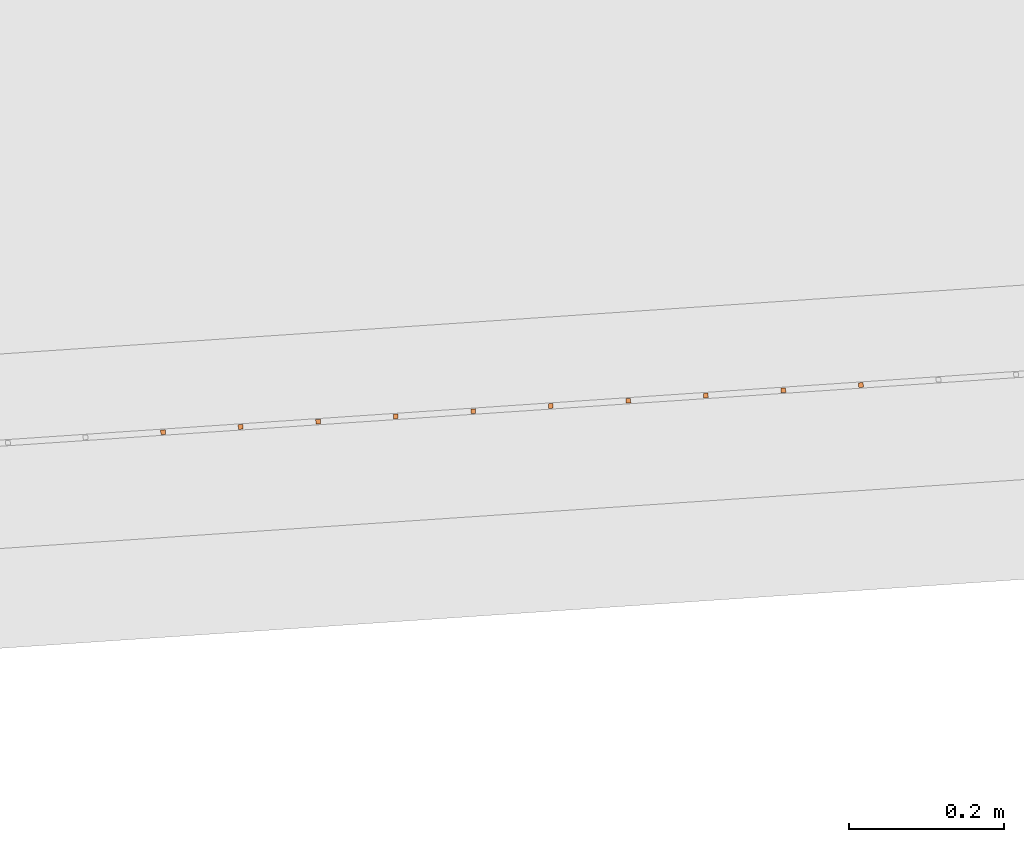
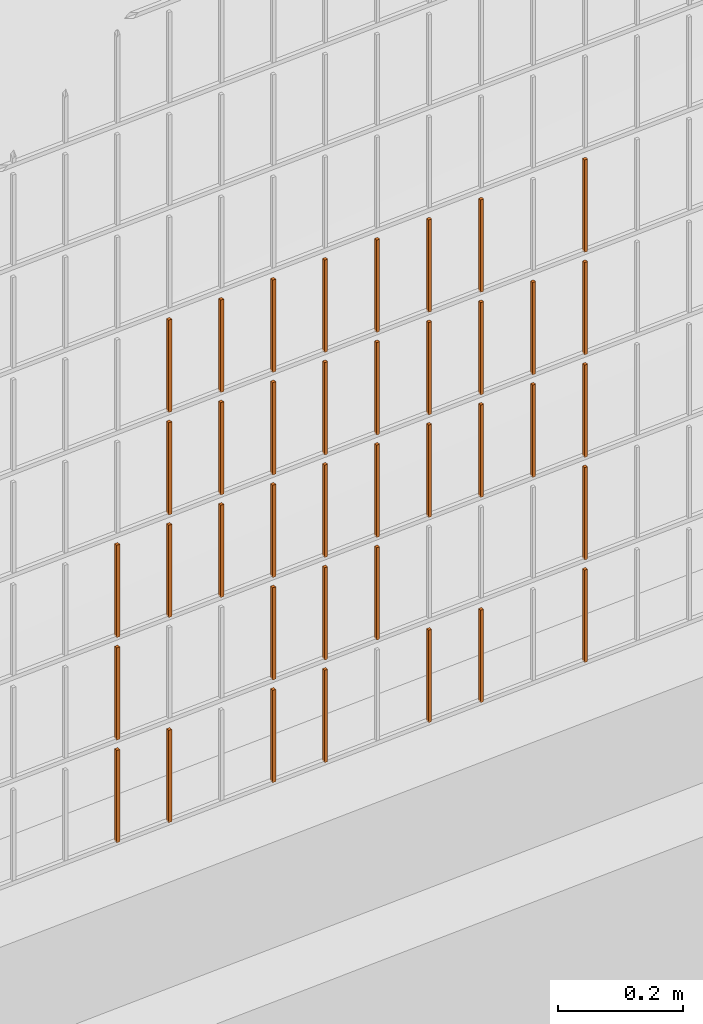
# One storey, part 135 of 1809: 39 proxies, 1 element without a shape of its own.
"""IFC2X3 building model written with IfcOpenShell, lengths in millimetres."""

from ifc_helpers import new_model, entity, si_unit, converted_unit, derived_unit, money_unit, direction, frame, origin_with_axes, place, context, subcontext, project, spatial, faceted_brep, source, transform, mapped, material, type_object, element, aggregate, save


model = new_model("IFC2X3")

# Units and contexts
model_context = context("Model", 3, precision=0.01, world=origin_with_axes(), true_north=direction((0.0, 1.0)))
body_context = subcontext(model_context, "Body", "Model", "MODEL_VIEW")
ifc_project = project(units=[si_unit("LENGTHUNIT", "METRE", prefix="MILLI"), si_unit("AREAUNIT", "SQUARE_METRE"), si_unit("VOLUMEUNIT", "CUBIC_METRE"), converted_unit("PLANEANGLEUNIT", "DEGREE", entity("IfcPlaneAngleMeasure", 0.0174532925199), si_unit("PLANEANGLEUNIT", "RADIAN"), dimensions=[0, 0, 0, 0, 0, 0, 0]), si_unit("SOLIDANGLEUNIT", "STERADIAN"), money_unit("EUR"), converted_unit("TIMEUNIT", "Year", entity("IfcTimeMeasure", 31556926.0), si_unit("TIMEUNIT", "SECOND"), dimensions=[0, 0, 1, 0, 0, 0, 0]), si_unit("MASSUNIT", "GRAM", prefix="KILO"), si_unit("THERMODYNAMICTEMPERATUREUNIT", "DEGREE_CELSIUS"), si_unit("LUMINOUSINTENSITYUNIT", "LUMEN"), si_unit("ENERGYUNIT", "JOULE", prefix="MEGA"), derived_unit("THERMALCONDUCTANCEUNIT", [(si_unit("POWERUNIT", "WATT"), 1), (si_unit("LENGTHUNIT", "METRE"), -1), (si_unit("THERMODYNAMICTEMPERATUREUNIT", "KELVIN"), -1)]), derived_unit("SPECIFICHEATCAPACITYUNIT", [(si_unit("ENERGYUNIT", "JOULE"), 1), (si_unit("MASSUNIT", "GRAM", prefix="KILO"), -1), (si_unit("THERMODYNAMICTEMPERATUREUNIT", "KELVIN"), -1)]), derived_unit("MASSDENSITYUNIT", [(si_unit("MASSUNIT", "GRAM", prefix="KILO"), 1), (si_unit("VOLUMEUNIT", "CUBIC_METRE"), -1)])], contexts=[model_context])

# Site, building, storey
site_placement = place(None, origin_with_axes())
site = spatial("IfcSite", under=ifc_project, at=site_placement, Name="Politse- ja Piirivalveameti ning Päästeameti ühishoone", CompositionType="ELEMENT")
building_placement = place(site_placement, origin_with_axes())
building = spatial("IfcBuilding", under=site, at=building_placement, Name="Politse- ja Piirivalveameti ning Päästeameti ühishoone", CompositionType="ELEMENT")
storey_placement = place(building_placement, origin_with_axes())
storey = spatial("IfcBuildingStorey", under=building, at=storey_placement, Name="Esimene korrus", CompositionType="ELEMENT", Elevation=0.0)

# Proxies
building_element_proxy_type_1 = type_object("IfcBuildingElementProxyType", Name="Railing Type", PredefinedType="NOTDEFINED")
proxy_1_placement = place(storey_placement, frame((89252.001212, -29183.4766571, 203.661247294), z_axis=(0.0, 0.0, 1.0), x_axis=(1.0, 0.0, 0.0)))
proxy_1 = element("IfcBuildingElementProxy", 1, at=proxy_1_placement, inside=storey, type_object=building_element_proxy_type_1, Name="PIIRDEAED")
ifc_material = material(Name="ET-03_Raud")
building_element_proxy_type_2 = type_object("IfcBuildingElementProxyType", Name="IfcBuildingElementProxy", PredefinedType="NOTDEFINED")
shared_shape_1 = source(origin_with_axes(), body_context, "Body", "Brep", [
    faceted_brep([(3.0, 3.0, -0.000752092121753), (-3.0, 3.0, -0.000752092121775), (-3.0, 3.0, 179.99926046), (3.0, 3.0, 179.99926046), (3.0, -3.0, 0.000752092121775), (-3.0, -3.0, 0.000752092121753), (-3.0, -3.0, 180.000764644), (3.0, -3.0, 180.000764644)], [[[0, 1, 2, 3]], [[0, 4, 5, 1]], [[1, 5, 6, 2]], [[3, 2, 6, 7]], [[4, 0, 3, 7]], [[5, 4, 7, 6]]]),
])
proxy_2_placement = place(proxy_1_placement, frame((-89023.833792, -23310.9987704, 804.865489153), z_axis=(0.0, 0.0, 1.0), x_axis=(1.0, 0.0, 0.0)))
proxy_2 = element("IfcBuildingElementProxy", 2, at=proxy_2_placement, type_object=building_element_proxy_type_2, material=ifc_material, Name="BALUSTER - 001", context=body_context, shape_type="MappedRepresentation", body=[
    mapped(shared_shape_1, transform((0.0, 0.0, 0.0), x_axis=(-0.0673926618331, 0.997726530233, 0.0), y_axis=(-0.997726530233, -0.0673926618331, 0.0), z_axis=(0.0, 0.0, 1.0))),
])
shared_shape_2 = source(origin_with_axes(), body_context, "Body", "Brep", [
    faceted_brep([(3.0, 3.0, -0.000752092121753), (-3.0, 3.0, -0.000752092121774), (-3.0, 3.0, 179.99926046), (3.0, 3.0, 179.99926046), (3.0, -3.0, 0.000752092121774), (-3.0, -3.0, 0.000752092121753), (-3.0, -3.0, 180.000764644), (3.0, -3.0, 180.000764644)], [[[0, 1, 2, 3]], [[0, 4, 5, 1]], [[1, 5, 6, 2]], [[3, 2, 6, 7]], [[4, 0, 3, 7]], [[5, 4, 7, 6]]]),
])
proxy_3_placement = place(proxy_1_placement, frame((-88225.6525678, -23257.084641, 5.06604705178), z_axis=(0.0, 0.0, 1.0), x_axis=(1.0, 0.0, 0.0)))
proxy_3 = element("IfcBuildingElementProxy", 3, at=proxy_3_placement, type_object=building_element_proxy_type_2, material=ifc_material, Name="BALUSTER - 001", context=body_context, shape_type="MappedRepresentation", body=[
    mapped(shared_shape_2, transform((0.0, 0.0, 0.0), x_axis=(-0.0673926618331, 0.997726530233, 0.0), y_axis=(-0.997726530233, -0.0673926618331, 0.0), z_axis=(0.0, 0.0, 1.0))),
])
proxy_4_placement = place(proxy_1_placement, frame((-88425.1978738, -23270.5631733, 5.01590757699), z_axis=(0.0, 0.0, 1.0), x_axis=(1.0, 0.0, 0.0)))
proxy_4 = element("IfcBuildingElementProxy", 4, at=proxy_4_placement, type_object=building_element_proxy_type_2, material=ifc_material, Name="BALUSTER - 001", context=body_context, shape_type="MappedRepresentation", body=[
    mapped(shared_shape_2, transform((0.0, 0.0, 0.0), x_axis=(-0.0673926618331, 0.997726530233, 0.0), y_axis=(-0.997726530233, -0.0673926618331, 0.0), z_axis=(0.0, 0.0, 1.0))),
])
proxy_5_placement = place(proxy_1_placement, frame((-88524.9705269, -23277.3024395, 4.9908378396), z_axis=(0.0, 0.0, 1.0), x_axis=(1.0, 0.0, 0.0)))
proxy_5 = element("IfcBuildingElementProxy", 5, at=proxy_5_placement, type_object=building_element_proxy_type_2, material=ifc_material, Name="BALUSTER - 001", context=body_context, shape_type="MappedRepresentation", body=[
    mapped(shared_shape_2, transform((0.0, 0.0, 0.0), x_axis=(-0.0673926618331, 0.997726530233, 0.0), y_axis=(-0.997726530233, -0.0673926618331, 0.0), z_axis=(0.0, 0.0, 1.0))),
])
proxy_6_placement = place(proxy_1_placement, frame((-88824.2884859, -23297.5202381, 4.91562862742), z_axis=(0.0, 0.0, 1.0), x_axis=(1.0, 0.0, 0.0)))
proxy_6 = element("IfcBuildingElementProxy", 6, at=proxy_6_placement, type_object=building_element_proxy_type_2, material=ifc_material, Name="BALUSTER - 001", context=body_context, shape_type="MappedRepresentation", body=[
    mapped(shared_shape_2, transform((0.0, 0.0, 0.0), x_axis=(-0.0673926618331, 0.997726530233, 0.0), y_axis=(-0.997726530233, -0.0673926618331, 0.0), z_axis=(0.0, 0.0, 1.0))),
])
shared_shape_3 = source(origin_with_axes(), body_context, "Body", "Brep", [
    faceted_brep([(3.0, 3.0, -0.000752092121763), (-3.0, 3.0, -0.000752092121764), (-3.0, 3.0, 179.99926046), (3.0, 3.0, 179.99926046), (3.0, -3.0, 0.000752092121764), (-3.0, -3.0, 0.000752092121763), (-3.0, -3.0, 180.000764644), (3.0, -3.0, 180.000764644)], [[[0, 1, 2, 3]], [[0, 4, 5, 1]], [[1, 5, 6, 2]], [[3, 2, 6, 7]], [[4, 0, 3, 7]], [[5, 4, 7, 6]]]),
])
proxy_7_placement = place(proxy_1_placement, frame((-88724.5158329, -23290.7809719, 4.94069836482), z_axis=(0.0, 0.0, 1.0), x_axis=(1.0, 0.0, 0.0)))
proxy_7 = element("IfcBuildingElementProxy", 7, at=proxy_7_placement, type_object=building_element_proxy_type_2, material=ifc_material, Name="BALUSTER - 001", context=body_context, shape_type="MappedRepresentation", body=[
    mapped(shared_shape_3, transform((0.0, 0.0, 0.0), x_axis=(-0.0673926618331, 0.997726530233, 0.0), y_axis=(-0.997726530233, -0.0673926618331, 0.0), z_axis=(0.0, 0.0, 1.0))),
])
shared_shape_4 = source(origin_with_axes(), body_context, "Body", "Brep", [
    faceted_brep([(3.0, 3.0, -0.000752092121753), (-3.0, 3.0, -0.000752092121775), (-3.0, 3.0, 179.99926046), (3.0, 3.0, 179.99926046), (3.0, -3.0, 0.000752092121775), (-3.0, -3.0, 0.000752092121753), (-3.0, -3.0, 180.000764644), (3.0, -3.0, 180.000764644)], [[[0, 1, 2, 3]], [[0, 4, 5, 1]], [[1, 5, 6, 2]], [[3, 2, 6, 7]], [[4, 0, 3, 7]], [[5, 4, 7, 6]]]),
])
proxy_8_placement = place(proxy_1_placement, frame((-89023.833792, -23310.9987704, 4.86548915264), z_axis=(0.0, 0.0, 1.0), x_axis=(1.0, 0.0, 0.0)))
proxy_8 = element("IfcBuildingElementProxy", 8, at=proxy_8_placement, type_object=building_element_proxy_type_2, material=ifc_material, Name="BALUSTER - 001", context=body_context, shape_type="MappedRepresentation", body=[
    mapped(shared_shape_4, transform((0.0, 0.0, 0.0), x_axis=(-0.0673926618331, 0.997726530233, 0.0), y_axis=(-0.997726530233, -0.0673926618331, 0.0), z_axis=(0.0, 0.0, 1.0))),
])
shared_shape_5 = source(origin_with_axes(), body_context, "Body", "Brep", [
    faceted_brep([(3.0, 3.0, -0.000752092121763), (-3.0, 3.0, -0.000752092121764), (-3.0, 3.0, 179.99926046), (3.0, 3.0, 179.99926046), (3.0, -3.0, 0.000752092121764), (-3.0, -3.0, 0.000752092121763), (-3.0, -3.0, 180.000764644), (3.0, -3.0, 180.000764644)], [[[0, 1, 2, 3]], [[0, 4, 5, 1]], [[1, 5, 6, 2]], [[3, 2, 6, 7]], [[4, 0, 3, 7]], [[5, 4, 7, 6]]]),
])
proxy_9_placement = place(proxy_1_placement, frame((-88724.5158329, -23290.7809719, 204.940698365), z_axis=(0.0, 0.0, 1.0), x_axis=(1.0, 0.0, 0.0)))
proxy_9 = element("IfcBuildingElementProxy", 9, at=proxy_9_placement, type_object=building_element_proxy_type_2, material=ifc_material, Name="BALUSTER - 001", context=body_context, shape_type="MappedRepresentation", body=[
    mapped(shared_shape_5, transform((0.0, 0.0, 0.0), x_axis=(-0.0673926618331, 0.997726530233, 0.0), y_axis=(-0.997726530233, -0.0673926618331, 0.0), z_axis=(0.0, 0.0, 1.0))),
])
shared_shape_6 = source(origin_with_axes(), body_context, "Body", "Brep", [
    faceted_brep([(3.0, 3.0, -0.000752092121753), (-3.0, 3.0, -0.000752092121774), (-3.0, 3.0, 179.99926046), (3.0, 3.0, 179.99926046), (3.0, -3.0, 0.000752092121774), (-3.0, -3.0, 0.000752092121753), (-3.0, -3.0, 180.000764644), (3.0, -3.0, 180.000764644)], [[[0, 1, 2, 3]], [[0, 4, 5, 1]], [[1, 5, 6, 2]], [[3, 2, 6, 7]], [[4, 0, 3, 7]], [[5, 4, 7, 6]]]),
])
proxy_10_placement = place(proxy_1_placement, frame((-88824.2884859, -23297.5202381, 204.915628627), z_axis=(0.0, 0.0, 1.0), x_axis=(1.0, 0.0, 0.0)))
proxy_10 = element("IfcBuildingElementProxy", 10, at=proxy_10_placement, type_object=building_element_proxy_type_2, material=ifc_material, Name="BALUSTER - 001", context=body_context, shape_type="MappedRepresentation", body=[
    mapped(shared_shape_6, transform((0.0, 0.0, 0.0), x_axis=(-0.0673926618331, 0.997726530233, 0.0), y_axis=(-0.997726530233, -0.0673926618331, 0.0), z_axis=(0.0, 0.0, 1.0))),
])
proxy_11_placement = place(proxy_1_placement, frame((-88225.6525678, -23257.084641, 405.066047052), z_axis=(0.0, 0.0, 1.0), x_axis=(1.0, 0.0, 0.0)))
proxy_11 = element("IfcBuildingElementProxy", 11, at=proxy_11_placement, type_object=building_element_proxy_type_2, material=ifc_material, Name="BALUSTER - 001", context=body_context, shape_type="MappedRepresentation", body=[
    mapped(shared_shape_6, transform((0.0, 0.0, 0.0), x_axis=(-0.0673926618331, 0.997726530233, 0.0), y_axis=(-0.997726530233, -0.0673926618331, 0.0), z_axis=(0.0, 0.0, 1.0))),
])
proxy_12_placement = place(proxy_1_placement, frame((-88824.2884859, -23297.5202381, 404.915628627), z_axis=(0.0, 0.0, 1.0), x_axis=(1.0, 0.0, 0.0)))
proxy_12 = element("IfcBuildingElementProxy", 12, at=proxy_12_placement, type_object=building_element_proxy_type_2, material=ifc_material, Name="BALUSTER - 001", context=body_context, shape_type="MappedRepresentation", body=[
    mapped(shared_shape_6, transform((0.0, 0.0, 0.0), x_axis=(-0.0673926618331, 0.997726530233, 0.0), y_axis=(-0.997726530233, -0.0673926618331, 0.0), z_axis=(0.0, 0.0, 1.0))),
])
proxy_13_placement = place(proxy_1_placement, frame((-89023.833792, -23310.9987704, 404.865489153), z_axis=(0.0, 0.0, 1.0), x_axis=(1.0, 0.0, 0.0)))
proxy_13 = element("IfcBuildingElementProxy", 13, at=proxy_13_placement, type_object=building_element_proxy_type_2, material=ifc_material, Name="BALUSTER - 001", context=body_context, shape_type="MappedRepresentation", body=[
    mapped(shared_shape_6, transform((0.0, 0.0, 0.0), x_axis=(-0.0673926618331, 0.997726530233, 0.0), y_axis=(-0.997726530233, -0.0673926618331, 0.0), z_axis=(0.0, 0.0, 1.0))),
])
proxy_14_placement = place(proxy_1_placement, frame((-88225.6525678, -23257.084641, 605.066047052), z_axis=(0.0, 0.0, 1.0), x_axis=(1.0, 0.0, 0.0)))
proxy_14 = element("IfcBuildingElementProxy", 14, at=proxy_14_placement, type_object=building_element_proxy_type_2, material=ifc_material, Name="BALUSTER - 001", context=body_context, shape_type="MappedRepresentation", body=[
    mapped(shared_shape_6, transform((0.0, 0.0, 0.0), x_axis=(-0.0673926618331, 0.997726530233, 0.0), y_axis=(-0.997726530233, -0.0673926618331, 0.0), z_axis=(0.0, 0.0, 1.0))),
])
proxy_15_placement = place(proxy_1_placement, frame((-88425.1978738, -23270.5631733, 605.015907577), z_axis=(0.0, 0.0, 1.0), x_axis=(1.0, 0.0, 0.0)))
proxy_15 = element("IfcBuildingElementProxy", 15, at=proxy_15_placement, type_object=building_element_proxy_type_2, material=ifc_material, Name="BALUSTER - 001", context=body_context, shape_type="MappedRepresentation", body=[
    mapped(shared_shape_6, transform((0.0, 0.0, 0.0), x_axis=(-0.0673926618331, 0.997726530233, 0.0), y_axis=(-0.997726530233, -0.0673926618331, 0.0), z_axis=(0.0, 0.0, 1.0))),
])
proxy_16_placement = place(proxy_1_placement, frame((-89023.833792, -23310.9987704, 604.865489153), z_axis=(0.0, 0.0, 1.0), x_axis=(1.0, 0.0, 0.0)))
proxy_16 = element("IfcBuildingElementProxy", 16, at=proxy_16_placement, type_object=building_element_proxy_type_2, material=ifc_material, Name="BALUSTER - 001", context=body_context, shape_type="MappedRepresentation", body=[
    mapped(shared_shape_6, transform((0.0, 0.0, 0.0), x_axis=(-0.0673926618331, 0.997726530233, 0.0), y_axis=(-0.997726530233, -0.0673926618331, 0.0), z_axis=(0.0, 0.0, 1.0))),
])
shared_shape_7 = source(origin_with_axes(), body_context, "Body", "Brep", [
    faceted_brep([(3.0, 3.0, -0.000752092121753), (-3.0, 3.0, -0.000752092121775), (-3.0, 3.0, 179.99926046), (3.0, 3.0, 179.99926046), (3.0, -3.0, 0.000752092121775), (-3.0, -3.0, 0.000752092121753), (-3.0, -3.0, 180.000764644), (3.0, -3.0, 180.000764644)], [[[0, 1, 2, 3]], [[0, 4, 5, 1]], [[1, 5, 6, 2]], [[3, 2, 6, 7]], [[4, 0, 3, 7]], [[5, 4, 7, 6]]]),
])
proxy_17_placement = place(proxy_1_placement, frame((-88524.9705269, -23277.3024395, 404.99083784), z_axis=(0.0, 0.0, 1.0), x_axis=(1.0, 0.0, 0.0)))
proxy_17 = element("IfcBuildingElementProxy", 17, at=proxy_17_placement, type_object=building_element_proxy_type_2, material=ifc_material, Name="BALUSTER - 001", context=body_context, shape_type="MappedRepresentation", body=[
    mapped(shared_shape_7, transform((0.0, 0.0, 0.0), x_axis=(-0.0673926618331, 0.997726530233, 0.0), y_axis=(-0.997726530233, -0.0673926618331, 0.0), z_axis=(0.0, 0.0, 1.0))),
])
shared_shape_8 = source(origin_with_axes(), body_context, "Body", "Brep", [
    faceted_brep([(3.0, 3.0, -0.000752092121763), (-3.0, 3.0, -0.000752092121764), (-3.0, 3.0, 179.99926046), (3.0, 3.0, 179.99926046), (3.0, -3.0, 0.000752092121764), (-3.0, -3.0, 0.000752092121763), (-3.0, -3.0, 180.000764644), (3.0, -3.0, 180.000764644)], [[[0, 1, 2, 3]], [[0, 4, 5, 1]], [[1, 5, 6, 2]], [[3, 2, 6, 7]], [[4, 0, 3, 7]], [[5, 4, 7, 6]]]),
])
proxy_18_placement = place(proxy_1_placement, frame((-88724.5158329, -23290.7809719, 404.940698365), z_axis=(0.0, 0.0, 1.0), x_axis=(1.0, 0.0, 0.0)))
proxy_18 = element("IfcBuildingElementProxy", 18, at=proxy_18_placement, type_object=building_element_proxy_type_2, material=ifc_material, Name="BALUSTER - 001", context=body_context, shape_type="MappedRepresentation", body=[
    mapped(shared_shape_8, transform((0.0, 0.0, 0.0), x_axis=(-0.0673926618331, 0.997726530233, 0.0), y_axis=(-0.997726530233, -0.0673926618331, 0.0), z_axis=(0.0, 0.0, 1.0))),
])
shared_shape_9 = source(origin_with_axes(), body_context, "Body", "Brep", [
    faceted_brep([(3.0, 3.0, -0.000752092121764), (-3.0, 3.0, -0.000752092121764), (-3.0, 3.0, 179.99926046), (3.0, 3.0, 179.99926046), (3.0, -3.0, 0.000752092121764), (-3.0, -3.0, 0.000752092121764), (-3.0, -3.0, 180.000764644), (3.0, -3.0, 180.000764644)], [[[0, 1, 2, 3]], [[0, 4, 5, 1]], [[1, 5, 6, 2]], [[3, 2, 6, 7]], [[4, 0, 3, 7]], [[5, 4, 7, 6]]]),
])
proxy_19_placement = place(proxy_1_placement, frame((-88624.7431799, -23284.0417057, 204.965768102), z_axis=(0.0, 0.0, 1.0), x_axis=(1.0, 0.0, 0.0)))
proxy_19 = element("IfcBuildingElementProxy", 19, at=proxy_19_placement, type_object=building_element_proxy_type_2, material=ifc_material, Name="BALUSTER - 001", context=body_context, shape_type="MappedRepresentation", body=[
    mapped(shared_shape_9, transform((0.0, 0.0, 0.0), x_axis=(-0.0673926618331, 0.997726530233, 0.0), y_axis=(-0.997726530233, -0.0673926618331, 0.0), z_axis=(0.0, 0.0, 1.0))),
])
proxy_20_placement = place(proxy_1_placement, frame((-88624.7431799, -23284.0417057, 404.965768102), z_axis=(0.0, 0.0, 1.0), x_axis=(1.0, 0.0, 0.0)))
proxy_20 = element("IfcBuildingElementProxy", 20, at=proxy_20_placement, type_object=building_element_proxy_type_2, material=ifc_material, Name="BALUSTER - 001", context=body_context, shape_type="MappedRepresentation", body=[
    mapped(shared_shape_9, transform((0.0, 0.0, 0.0), x_axis=(-0.0673926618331, 0.997726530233, 0.0), y_axis=(-0.997726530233, -0.0673926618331, 0.0), z_axis=(0.0, 0.0, 1.0))),
])
proxy_21_placement = place(proxy_1_placement, frame((-88624.7431799, -23284.0417057, 604.965768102), z_axis=(0.0, 0.0, 1.0), x_axis=(1.0, 0.0, 0.0)))
proxy_21 = element("IfcBuildingElementProxy", 21, at=proxy_21_placement, type_object=building_element_proxy_type_2, material=ifc_material, Name="BALUSTER - 001", context=body_context, shape_type="MappedRepresentation", body=[
    mapped(shared_shape_9, transform((0.0, 0.0, 0.0), x_axis=(-0.0673926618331, 0.997726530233, 0.0), y_axis=(-0.997726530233, -0.0673926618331, 0.0), z_axis=(0.0, 0.0, 1.0))),
])
shared_shape_10 = source(origin_with_axes(), body_context, "Body", "Brep", [
    faceted_brep([(3.0, 3.0, -0.000752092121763), (-3.0, 3.0, -0.000752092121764), (-3.0, 3.0, 179.99926046), (3.0, 3.0, 179.99926046), (3.0, -3.0, 0.000752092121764), (-3.0, -3.0, 0.000752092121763), (-3.0, -3.0, 180.000764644), (3.0, -3.0, 180.000764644)], [[[0, 1, 2, 3]], [[0, 4, 5, 1]], [[1, 5, 6, 2]], [[3, 2, 6, 7]], [[4, 0, 3, 7]], [[5, 4, 7, 6]]]),
])
proxy_22_placement = place(proxy_1_placement, frame((-88724.5158329, -23290.7809719, 804.940698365), z_axis=(0.0, 0.0, 1.0), x_axis=(1.0, 0.0, 0.0)))
proxy_22 = element("IfcBuildingElementProxy", 22, at=proxy_22_placement, type_object=building_element_proxy_type_2, material=ifc_material, Name="BALUSTER - 001", context=body_context, shape_type="MappedRepresentation", body=[
    mapped(shared_shape_10, transform((0.0, 0.0, 0.0), x_axis=(-0.0673926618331, 0.997726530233, 0.0), y_axis=(-0.997726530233, -0.0673926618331, 0.0), z_axis=(0.0, 0.0, 1.0))),
])
shared_shape_11 = source(origin_with_axes(), body_context, "Body", "Brep", [
    faceted_brep([(3.0, 3.0, -0.000752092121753), (-3.0, 3.0, -0.000752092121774), (-3.0, 3.0, 179.99926046), (3.0, 3.0, 179.99926046), (3.0, -3.0, 0.000752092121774), (-3.0, -3.0, 0.000752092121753), (-3.0, -3.0, 180.000764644), (3.0, -3.0, 180.000764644)], [[[0, 1, 2, 3]], [[0, 4, 5, 1]], [[1, 5, 6, 2]], [[3, 2, 6, 7]], [[4, 0, 3, 7]], [[5, 4, 7, 6]]]),
])
proxy_23_placement = place(proxy_1_placement, frame((-88225.6525678, -23257.084641, 205.066047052), z_axis=(0.0, 0.0, 1.0), x_axis=(1.0, 0.0, 0.0)))
proxy_23 = element("IfcBuildingElementProxy", 23, at=proxy_23_placement, type_object=building_element_proxy_type_2, material=ifc_material, Name="BALUSTER - 001", context=body_context, shape_type="MappedRepresentation", body=[
    mapped(shared_shape_11, transform((0.0, 0.0, 0.0), x_axis=(-0.0673926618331, 0.997726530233, 0.0), y_axis=(-0.997726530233, -0.0673926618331, 0.0), z_axis=(0.0, 0.0, 1.0))),
])
proxy_24_placement = place(proxy_1_placement, frame((-88425.1978738, -23270.5631733, 405.015907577), z_axis=(0.0, 0.0, 1.0), x_axis=(1.0, 0.0, 0.0)))
proxy_24 = element("IfcBuildingElementProxy", 24, at=proxy_24_placement, type_object=building_element_proxy_type_2, material=ifc_material, Name="BALUSTER - 001", context=body_context, shape_type="MappedRepresentation", body=[
    mapped(shared_shape_11, transform((0.0, 0.0, 0.0), x_axis=(-0.0673926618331, 0.997726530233, 0.0), y_axis=(-0.997726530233, -0.0673926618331, 0.0), z_axis=(0.0, 0.0, 1.0))),
])
proxy_25_placement = place(proxy_1_placement, frame((-88824.2884859, -23297.5202381, 604.915628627), z_axis=(0.0, 0.0, 1.0), x_axis=(1.0, 0.0, 0.0)))
proxy_25 = element("IfcBuildingElementProxy", 25, at=proxy_25_placement, type_object=building_element_proxy_type_2, material=ifc_material, Name="BALUSTER - 001", context=body_context, shape_type="MappedRepresentation", body=[
    mapped(shared_shape_11, transform((0.0, 0.0, 0.0), x_axis=(-0.0673926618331, 0.997726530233, 0.0), y_axis=(-0.997726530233, -0.0673926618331, 0.0), z_axis=(0.0, 0.0, 1.0))),
])
shared_shape_12 = source(origin_with_axes(), body_context, "Body", "Brep", [
    faceted_brep([(3.0, 3.0, -0.000752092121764), (-3.0, 3.0, -0.000752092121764), (-3.0, 3.0, 179.99926046), (3.0, 3.0, 179.99926046), (3.0, -3.0, 0.000752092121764), (-3.0, -3.0, 0.000752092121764), (-3.0, -3.0, 180.000764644), (3.0, -3.0, 180.000764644)], [[[0, 1, 2, 3]], [[0, 4, 5, 1]], [[1, 5, 6, 2]], [[3, 2, 6, 7]], [[4, 0, 3, 7]], [[5, 4, 7, 6]]]),
])
proxy_26_placement = place(proxy_1_placement, frame((-88624.7431799, -23284.0417057, 804.965768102), z_axis=(0.0, 0.0, 1.0), x_axis=(1.0, 0.0, 0.0)))
proxy_26 = element("IfcBuildingElementProxy", 26, at=proxy_26_placement, type_object=building_element_proxy_type_2, material=ifc_material, Name="BALUSTER - 001", context=body_context, shape_type="MappedRepresentation", body=[
    mapped(shared_shape_12, transform((0.0, 0.0, 0.0), x_axis=(-0.0673926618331, 0.997726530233, 0.0), y_axis=(-0.997726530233, -0.0673926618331, 0.0), z_axis=(0.0, 0.0, 1.0))),
])
shared_shape_13 = source(origin_with_axes(), body_context, "Body", "Brep", [
    faceted_brep([(3.0, 3.0, -0.000752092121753), (-3.0, 3.0, -0.000752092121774), (-3.0, 3.0, 179.99926046), (3.0, 3.0, 179.99926046), (3.0, -3.0, 0.000752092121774), (-3.0, -3.0, 0.000752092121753), (-3.0, -3.0, 180.000764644), (3.0, -3.0, 180.000764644)], [[[0, 1, 2, 3]], [[0, 4, 5, 1]], [[1, 5, 6, 2]], [[3, 2, 6, 7]], [[4, 0, 3, 7]], [[5, 4, 7, 6]]]),
])
proxy_27_placement = place(proxy_1_placement, frame((-88824.2884859, -23297.5202381, 804.915628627), z_axis=(0.0, 0.0, 1.0), x_axis=(1.0, 0.0, 0.0)))
proxy_27 = element("IfcBuildingElementProxy", 27, at=proxy_27_placement, type_object=building_element_proxy_type_2, material=ifc_material, Name="BALUSTER - 001", context=body_context, shape_type="MappedRepresentation", body=[
    mapped(shared_shape_13, transform((0.0, 0.0, 0.0), x_axis=(-0.0673926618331, 0.997726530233, 0.0), y_axis=(-0.997726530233, -0.0673926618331, 0.0), z_axis=(0.0, 0.0, 1.0))),
])
shared_shape_14 = source(origin_with_axes(), body_context, "Body", "Brep", [
    faceted_brep([(3.0, 3.0, -0.000752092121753), (-3.0, 3.0, -0.000752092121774), (-3.0, 3.0, 179.99926046), (3.0, 3.0, 179.99926046), (3.0, -3.0, 0.000752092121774), (-3.0, -3.0, 0.000752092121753), (-3.0, -3.0, 180.000764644), (3.0, -3.0, 180.000764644)], [[[0, 1, 2, 3]], [[0, 4, 5, 1]], [[1, 5, 6, 2]], [[3, 2, 6, 7]], [[4, 0, 3, 7]], [[5, 4, 7, 6]]]),
])
proxy_28_placement = place(proxy_1_placement, frame((-88225.6525678, -23257.084641, 805.066047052), z_axis=(0.0, 0.0, 1.0), x_axis=(1.0, 0.0, 0.0)))
proxy_28 = element("IfcBuildingElementProxy", 28, at=proxy_28_placement, type_object=building_element_proxy_type_2, material=ifc_material, Name="BALUSTER - 001", context=body_context, shape_type="MappedRepresentation", body=[
    mapped(shared_shape_14, transform((0.0, 0.0, 0.0), x_axis=(-0.0673926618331, 0.997726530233, 0.0), y_axis=(-0.997726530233, -0.0673926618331, 0.0), z_axis=(0.0, 0.0, 1.0))),
])
proxy_29_placement = place(proxy_1_placement, frame((-88524.9705269, -23277.3024395, 804.99083784), z_axis=(0.0, 0.0, 1.0), x_axis=(1.0, 0.0, 0.0)))
proxy_29 = element("IfcBuildingElementProxy", 29, at=proxy_29_placement, type_object=building_element_proxy_type_2, material=ifc_material, Name="BALUSTER - 001", context=body_context, shape_type="MappedRepresentation", body=[
    mapped(shared_shape_14, transform((0.0, 0.0, 0.0), x_axis=(-0.0673926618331, 0.997726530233, 0.0), y_axis=(-0.997726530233, -0.0673926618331, 0.0), z_axis=(0.0, 0.0, 1.0))),
])
shared_shape_15 = source(origin_with_axes(), body_context, "Body", "Brep", [
    faceted_brep([(3.0, 3.0, -0.000752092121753), (-3.0, 3.0, -0.000752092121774), (-3.0, 3.0, 179.99926046), (3.0, 3.0, 179.99926046), (3.0, -3.0, 0.000752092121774), (-3.0, -3.0, 0.000752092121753), (-3.0, -3.0, 180.000764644), (3.0, -3.0, 180.000764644)], [[[0, 1, 2, 3]], [[0, 4, 5, 1]], [[1, 5, 6, 2]], [[3, 2, 6, 7]], [[4, 0, 3, 7]], [[5, 4, 7, 6]]]),
])
proxy_30_placement = place(proxy_1_placement, frame((-88425.1978738, -23270.5631733, 805.015907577), z_axis=(0.0, 0.0, 1.0), x_axis=(1.0, 0.0, 0.0)))
proxy_30 = element("IfcBuildingElementProxy", 30, at=proxy_30_placement, type_object=building_element_proxy_type_2, material=ifc_material, Name="BALUSTER - 001", context=body_context, shape_type="MappedRepresentation", body=[
    mapped(shared_shape_15, transform((0.0, 0.0, 0.0), x_axis=(-0.0673926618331, 0.997726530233, 0.0), y_axis=(-0.997726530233, -0.0673926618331, 0.0), z_axis=(0.0, 0.0, 1.0))),
])
shared_shape_16 = source(origin_with_axes(), body_context, "Body", "Brep", [
    faceted_brep([(3.0, 3.0, -0.000752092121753), (-3.0, 3.0, -0.000752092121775), (-3.0, 3.0, 179.99926046), (3.0, 3.0, 179.99926046), (3.0, -3.0, 0.000752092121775), (-3.0, -3.0, 0.000752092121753), (-3.0, -3.0, 180.000764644), (3.0, -3.0, 180.000764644)], [[[0, 1, 2, 3]], [[0, 4, 5, 1]], [[1, 5, 6, 2]], [[3, 2, 6, 7]], [[4, 0, 3, 7]], [[5, 4, 7, 6]]]),
])
proxy_31_placement = place(proxy_1_placement, frame((-88524.9705269, -23277.3024395, 604.99083784), z_axis=(0.0, 0.0, 1.0), x_axis=(1.0, 0.0, 0.0)))
proxy_31 = element("IfcBuildingElementProxy", 31, at=proxy_31_placement, type_object=building_element_proxy_type_2, material=ifc_material, Name="BALUSTER - 001", context=body_context, shape_type="MappedRepresentation", body=[
    mapped(shared_shape_16, transform((0.0, 0.0, 0.0), x_axis=(-0.0673926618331, 0.997726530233, 0.0), y_axis=(-0.997726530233, -0.0673926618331, 0.0), z_axis=(0.0, 0.0, 1.0))),
])
shared_shape_17 = source(origin_with_axes(), body_context, "Body", "Brep", [
    faceted_brep([(3.0, 3.0, -0.000752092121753), (-3.0, 3.0, -0.000752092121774), (-3.0, 3.0, 179.99926046), (3.0, 3.0, 179.99926046), (3.0, -3.0, 0.000752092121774), (-3.0, -3.0, 0.000752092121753), (-3.0, -3.0, 180.000764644), (3.0, -3.0, 180.000764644)], [[[0, 1, 2, 3]], [[0, 4, 5, 1]], [[1, 5, 6, 2]], [[3, 2, 6, 7]], [[4, 0, 3, 7]], [[5, 4, 7, 6]]]),
])
proxy_32_placement = place(proxy_1_placement, frame((-89123.606445, -23317.7380366, 4.84041941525), z_axis=(0.0, 0.0, 1.0), x_axis=(1.0, 0.0, 0.0)))
proxy_32 = element("IfcBuildingElementProxy", 32, at=proxy_32_placement, type_object=building_element_proxy_type_2, material=ifc_material, Name="BALUSTER - 001", context=body_context, shape_type="MappedRepresentation", body=[
    mapped(shared_shape_17, transform((0.0, 0.0, 0.0), x_axis=(-0.0673926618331, 0.997726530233, 0.0), y_axis=(-0.997726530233, -0.0673926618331, 0.0), z_axis=(0.0, 0.0, 1.0))),
])
proxy_33_placement = place(proxy_1_placement, frame((-89123.606445, -23317.7380366, 204.840419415), z_axis=(0.0, 0.0, 1.0), x_axis=(1.0, 0.0, 0.0)))
proxy_33 = element("IfcBuildingElementProxy", 33, at=proxy_33_placement, type_object=building_element_proxy_type_2, material=ifc_material, Name="BALUSTER - 001", context=body_context, shape_type="MappedRepresentation", body=[
    mapped(shared_shape_17, transform((0.0, 0.0, 0.0), x_axis=(-0.0673926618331, 0.997726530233, 0.0), y_axis=(-0.997726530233, -0.0673926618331, 0.0), z_axis=(0.0, 0.0, 1.0))),
])
shared_shape_18 = source(origin_with_axes(), body_context, "Body", "Brep", [
    faceted_brep([(3.0, 3.0, -0.000752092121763), (-3.0, 3.0, -0.000752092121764), (-3.0, 3.0, 179.99926046), (3.0, 3.0, 179.99926046), (3.0, -3.0, 0.000752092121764), (-3.0, -3.0, 0.000752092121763), (-3.0, -3.0, 180.000764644), (3.0, -3.0, 180.000764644)], [[[0, 1, 2, 3]], [[0, 4, 5, 1]], [[1, 5, 6, 2]], [[3, 2, 6, 7]], [[4, 0, 3, 7]], [[5, 4, 7, 6]]]),
])
proxy_34_placement = place(proxy_1_placement, frame((-88724.5158329, -23290.7809719, 604.940698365), z_axis=(0.0, 0.0, 1.0), x_axis=(1.0, 0.0, 0.0)))
proxy_34 = element("IfcBuildingElementProxy", 34, at=proxy_34_placement, type_object=building_element_proxy_type_2, material=ifc_material, Name="BALUSTER - 001", context=body_context, shape_type="MappedRepresentation", body=[
    mapped(shared_shape_18, transform((0.0, 0.0, 0.0), x_axis=(-0.0673926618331, 0.997726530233, 0.0), y_axis=(-0.997726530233, -0.0673926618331, 0.0), z_axis=(0.0, 0.0, 1.0))),
])
shared_shape_19 = source(origin_with_axes(), body_context, "Body", "Brep", [
    faceted_brep([(3.0, 3.0, -0.000752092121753), (-3.0, 3.0, -0.000752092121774), (-3.0, 3.0, 179.99926046), (3.0, 3.0, 179.99926046), (3.0, -3.0, 0.000752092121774), (-3.0, -3.0, 0.000752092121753), (-3.0, -3.0, 180.000764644), (3.0, -3.0, 180.000764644)], [[[0, 1, 2, 3]], [[0, 4, 5, 1]], [[1, 5, 6, 2]], [[3, 2, 6, 7]], [[4, 0, 3, 7]], [[5, 4, 7, 6]]]),
])
proxy_35_placement = place(proxy_1_placement, frame((-88325.4252208, -23263.8239071, 405.040977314), z_axis=(0.0, 0.0, 1.0), x_axis=(1.0, 0.0, 0.0)))
proxy_35 = element("IfcBuildingElementProxy", 35, at=proxy_35_placement, type_object=building_element_proxy_type_2, material=ifc_material, Name="BALUSTER - 001", context=body_context, shape_type="MappedRepresentation", body=[
    mapped(shared_shape_19, transform((0.0, 0.0, 0.0), x_axis=(-0.0673926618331, 0.997726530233, 0.0), y_axis=(-0.997726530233, -0.0673926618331, 0.0), z_axis=(0.0, 0.0, 1.0))),
])
proxy_36_placement = place(proxy_1_placement, frame((-89123.606445, -23317.7380366, 404.840419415), z_axis=(0.0, 0.0, 1.0), x_axis=(1.0, 0.0, 0.0)))
proxy_36 = element("IfcBuildingElementProxy", 36, at=proxy_36_placement, type_object=building_element_proxy_type_2, material=ifc_material, Name="BALUSTER - 001", context=body_context, shape_type="MappedRepresentation", body=[
    mapped(shared_shape_19, transform((0.0, 0.0, 0.0), x_axis=(-0.0673926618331, 0.997726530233, 0.0), y_axis=(-0.997726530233, -0.0673926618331, 0.0), z_axis=(0.0, 0.0, 1.0))),
])
proxy_37_placement = place(proxy_1_placement, frame((-88325.4252208, -23263.8239071, 605.040977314), z_axis=(0.0, 0.0, 1.0), x_axis=(1.0, 0.0, 0.0)))
proxy_37 = element("IfcBuildingElementProxy", 37, at=proxy_37_placement, type_object=building_element_proxy_type_2, material=ifc_material, Name="BALUSTER - 001", context=body_context, shape_type="MappedRepresentation", body=[
    mapped(shared_shape_19, transform((0.0, 0.0, 0.0), x_axis=(-0.0673926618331, 0.997726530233, 0.0), y_axis=(-0.997726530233, -0.0673926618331, 0.0), z_axis=(0.0, 0.0, 1.0))),
])
shared_shape_20 = source(origin_with_axes(), body_context, "Body", "Brep", [
    faceted_brep([(3.0, 3.0, -0.000752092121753), (-3.0, 3.0, -0.000752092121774), (-3.0, 3.0, 179.99926046), (3.0, 3.0, 179.99926046), (3.0, -3.0, 0.000752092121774), (-3.0, -3.0, 0.000752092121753), (-3.0, -3.0, 180.000764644), (3.0, -3.0, 180.000764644)], [[[0, 1, 2, 3]], [[0, 4, 5, 1]], [[1, 5, 6, 2]], [[3, 2, 6, 7]], [[4, 0, 3, 7]], [[5, 4, 7, 6]]]),
])
proxy_38_placement = place(proxy_1_placement, frame((-88924.061139, -23304.2595042, 404.89055889), z_axis=(0.0, 0.0, 1.0), x_axis=(1.0, 0.0, 0.0)))
proxy_38 = element("IfcBuildingElementProxy", 38, at=proxy_38_placement, type_object=building_element_proxy_type_2, material=ifc_material, Name="BALUSTER - 001", context=body_context, shape_type="MappedRepresentation", body=[
    mapped(shared_shape_20, transform((0.0, 0.0, 0.0), x_axis=(-0.0673926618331, 0.997726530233, 0.0), y_axis=(-0.997726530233, -0.0673926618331, 0.0), z_axis=(0.0, 0.0, 1.0))),
])
proxy_39_placement = place(proxy_1_placement, frame((-88924.061139, -23304.2595042, 604.89055889), z_axis=(0.0, 0.0, 1.0), x_axis=(1.0, 0.0, 0.0)))
proxy_39 = element("IfcBuildingElementProxy", 39, at=proxy_39_placement, type_object=building_element_proxy_type_2, material=ifc_material, Name="BALUSTER - 001", context=body_context, shape_type="MappedRepresentation", body=[
    mapped(shared_shape_20, transform((0.0, 0.0, 0.0), x_axis=(-0.0673926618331, 0.997726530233, 0.0), y_axis=(-0.997726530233, -0.0673926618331, 0.0), z_axis=(0.0, 0.0, 1.0))),
])
shared_shape_21 = source(origin_with_axes(), body_context, "Body", "Brep", [
    faceted_brep([(3.0, 3.0, -0.000752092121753), (-3.0, 3.0, -0.000752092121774), (-3.0, 3.0, 179.99926046), (3.0, 3.0, 179.99926046), (3.0, -3.0, 0.000752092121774), (-3.0, -3.0, 0.000752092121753), (-3.0, -3.0, 180.000764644), (3.0, -3.0, 180.000764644)], [[[0, 1, 2, 3]], [[0, 4, 5, 1]], [[1, 5, 6, 2]], [[3, 2, 6, 7]], [[4, 0, 3, 7]], [[5, 4, 7, 6]]]),
])
proxy_40_placement = place(proxy_1_placement, frame((-88924.061139, -23304.2595042, 804.89055889), z_axis=(0.0, 0.0, 1.0), x_axis=(1.0, 0.0, 0.0)))
proxy_40 = element("IfcBuildingElementProxy", 40, at=proxy_40_placement, type_object=building_element_proxy_type_2, material=ifc_material, Name="BALUSTER - 001", context=body_context, shape_type="MappedRepresentation", body=[
    mapped(shared_shape_21, transform((0.0, 0.0, 0.0), x_axis=(-0.0673926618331, 0.997726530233, 0.0), y_axis=(-0.997726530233, -0.0673926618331, 0.0), z_axis=(0.0, 0.0, 1.0))),
])
aggregate(proxy_1, [proxy_3, proxy_4, proxy_5, proxy_7, proxy_6, proxy_8, proxy_32, proxy_23, proxy_19, proxy_9, proxy_10, proxy_33, proxy_11, proxy_35, proxy_24, proxy_17, proxy_20, proxy_18, proxy_12, proxy_38, proxy_13, proxy_36, proxy_14, proxy_37, proxy_15, proxy_31, proxy_21, proxy_34, proxy_25, proxy_39, proxy_16, proxy_28, proxy_30, proxy_29, proxy_26, proxy_22, proxy_27, proxy_40, proxy_2])

save(model, "model.ifc")
